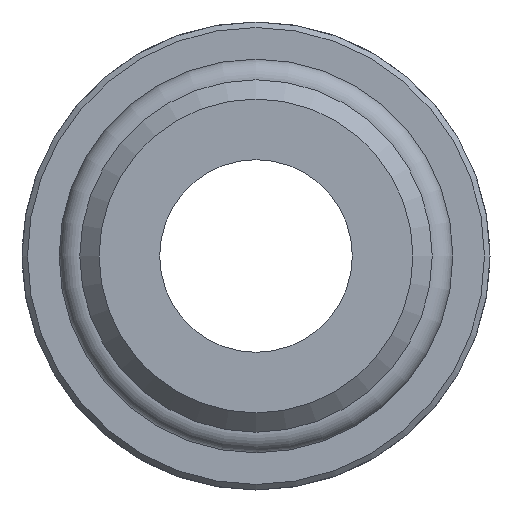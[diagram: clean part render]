
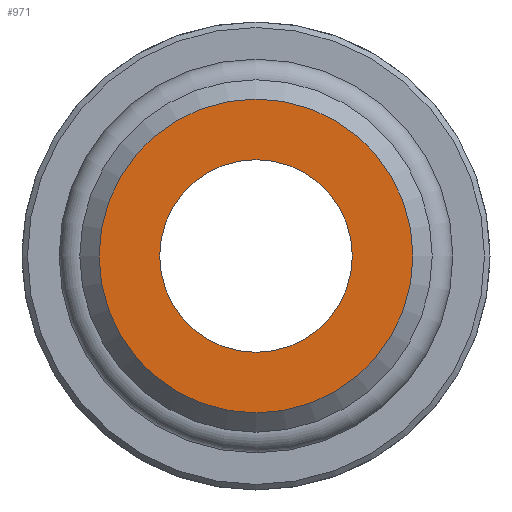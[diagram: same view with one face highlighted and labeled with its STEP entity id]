
A CAD part, front view. The second image highlights one B-rep face of the part: STEP entity #971.
In plain terms, the highlighted planar face has unit normal (0, -1, 0).
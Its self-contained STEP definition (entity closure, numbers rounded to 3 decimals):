
#79=FACE_BOUND('',#233,.T.);
#142=FACE_OUTER_BOUND('',#232,.T.);
#232=EDGE_LOOP('',(#868));
#233=EDGE_LOOP('',(#869));
#260=CIRCLE('',#1040,3.5);
#282=CIRCLE('',#1084,5.7);
#476=VERTEX_POINT('',#1608);
#497=VERTEX_POINT('',#1673);
#599=EDGE_CURVE('',#476,#476,#260,.T.);
#621=EDGE_CURVE('',#497,#497,#282,.T.);
#868=ORIENTED_EDGE('',*,*,#621,.T.);
#869=ORIENTED_EDGE('',*,*,#599,.T.);
#906=PLANE('',#1085);
#971=ADVANCED_FACE('',(#142,#79),#906,.T.);
#1040=AXIS2_PLACEMENT_3D('',#1609,#1283,#1284);
#1084=AXIS2_PLACEMENT_3D('',#1674,#1371,#1372);
#1085=AXIS2_PLACEMENT_3D('',#1675,#1373,#1374);
#1283=DIRECTION('center_axis',(0.,1.,0.));
#1284=DIRECTION('ref_axis',(-1.,0.,0.));
#1371=DIRECTION('center_axis',(0.,-1.,0.));
#1372=DIRECTION('ref_axis',(1.,0.,0.));
#1373=DIRECTION('center_axis',(0.,-1.,0.));
#1374=DIRECTION('ref_axis',(0.,0.,-1.));
#1608=CARTESIAN_POINT('',(3.5,0.,0.));
#1609=CARTESIAN_POINT('Origin',(0.,0.,0.));
#1673=CARTESIAN_POINT('',(5.7,0.,0.));
#1674=CARTESIAN_POINT('Origin',(0.,0.,0.));
#1675=CARTESIAN_POINT('Origin',(0.,0.,0.));
